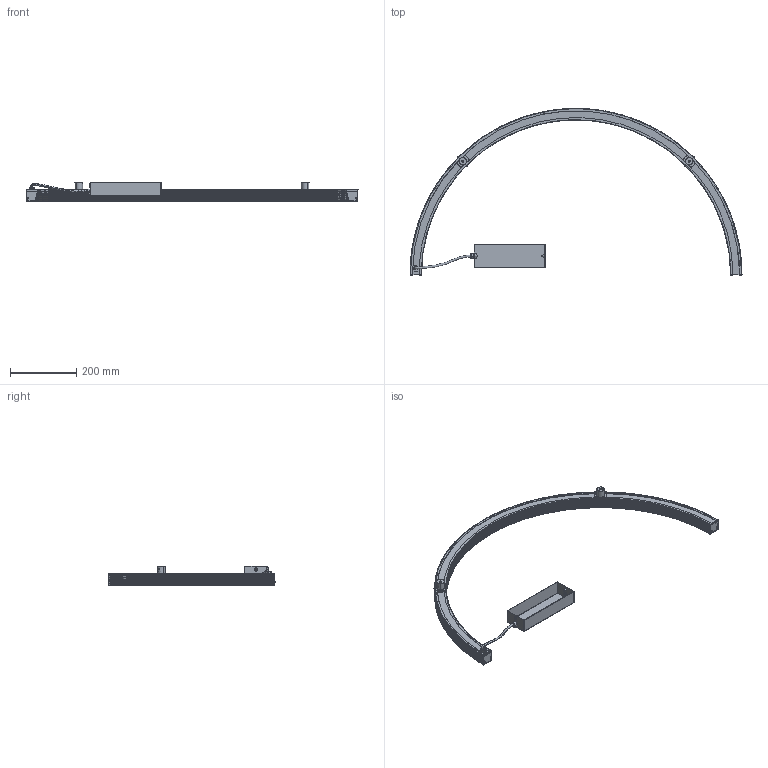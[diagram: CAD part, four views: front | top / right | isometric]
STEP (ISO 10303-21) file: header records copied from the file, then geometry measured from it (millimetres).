
FILE_DESCRIPTION(/* description */ (''),/* implementation_level */ '2;1');
FILE_NAME(/* name */ 'P231__~1',/* time_stamp */ '2024-07-05T11:59:14+02:00',/* author */ (''),/* organization */ (''),/* preprocessor_version */ 'ST-DEVELOPER v16.5',/* originating_system */ '',/* authorisation */ '');
FILE_SCHEMA (('AUTOMOTIVE_DESIGN'));
Length unit declared in the file: millimetre
Products named in the file (1): Document
Bounding box: 1000 x 503.34 x 59 mm (x, y, z)
Volume: 519007.1 mm3; surface area: 654142.3 mm2
Topology: 31 solids, 31 shells, 1194 faces, 3019 edges, 1836 vertices
Faces by surface type: bspline 701, plane 493
Entity records: 55197 total; most frequent: CARTESIAN_POINT 37435, ORIENTED_EDGE 5886, EDGE_CURVE 2943, VERTEX_POINT 1836, B_SPLINE_CURVE_WITH_KNOTS 1647, EDGE_LOOP 1265, ADVANCED_FACE 1194, FACE_OUTER_BOUND 1194
